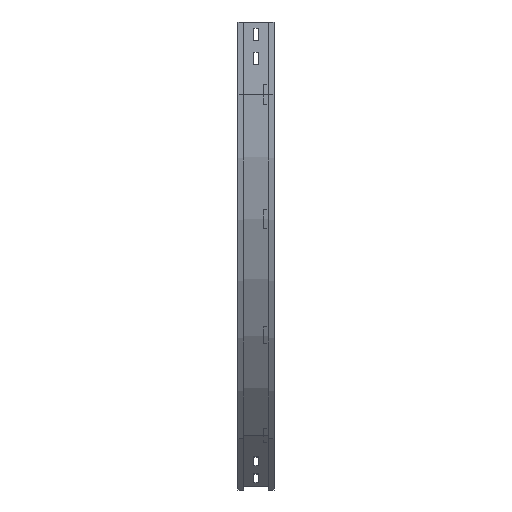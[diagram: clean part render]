
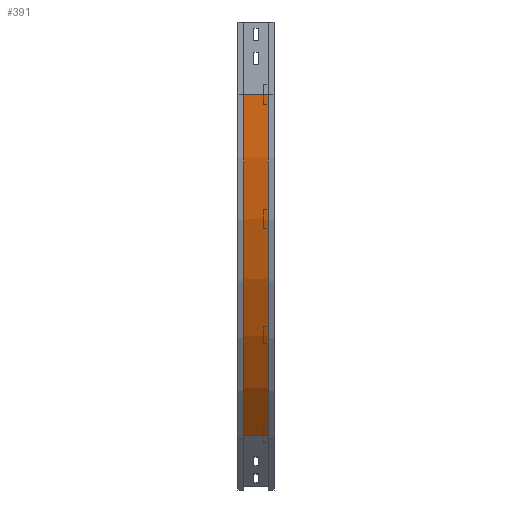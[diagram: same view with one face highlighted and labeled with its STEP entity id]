
A CAD part, left-side view. The second image highlights one B-rep face of the part: STEP entity #391.
In plain terms, the highlighted cylindrical face has radius 1000 mm (diameter 2000 mm), a partial arc.
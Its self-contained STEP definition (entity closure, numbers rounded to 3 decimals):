
#13 = DIRECTION ( 'NONE',  ( -1., 0., 0. ) ) ;
#59 = AXIS2_PLACEMENT_3D ( 'NONE', #2883, #1597, #1541 ) ;
#391 = ADVANCED_FACE ( 'NONE', ( #2076 ), #3380, .T. ) ;
#441 = ORIENTED_EDGE ( 'NONE', *, *, #2560, .T. ) ;
#532 = VERTEX_POINT ( 'NONE', #2187 ) ;
#544 = CIRCLE ( 'NONE', #2575, 1000. ) ;
#577 = CARTESIAN_POINT ( 'NONE',  ( 301.893, 12., -857.107 ) ) ;
#714 = EDGE_CURVE ( 'NONE', #2636, #1776, #1269, .T. ) ;
#759 = ORIENTED_EDGE ( 'NONE', *, *, #1771, .F. ) ;
#1162 = VERTEX_POINT ( 'NONE', #3138 ) ;
#1185 = DIRECTION ( 'NONE',  ( 0., -1., 0. ) ) ;
#1190 = CARTESIAN_POINT ( 'NONE',  ( 1009., 12., -150. ) ) ;
#1253 = CARTESIAN_POINT ( 'NONE',  ( 9., 12., -150. ) ) ;
#1269 = LINE ( 'NONE', #1253, #3153 ) ;
#1431 = DIRECTION ( 'NONE',  ( -1., 0., 0. ) ) ;
#1541 = DIRECTION ( 'NONE',  ( 0., 0., -1. ) ) ;
#1597 = DIRECTION ( 'NONE',  ( 0., -1., 0. ) ) ;
#1604 = CARTESIAN_POINT ( 'NONE',  ( 9., 12., -150. ) ) ;
#1771 = EDGE_CURVE ( 'NONE', #1776, #532, #2202, .T. ) ;
#1776 = VERTEX_POINT ( 'NONE', #1604 ) ;
#1922 = EDGE_LOOP ( 'NONE', ( #759, #3285, #3279, #441 ) ) ;
#2059 = VECTOR ( 'NONE', #1185, 1000. ) ;
#2076 = FACE_OUTER_BOUND ( 'NONE', #1922, .T. ) ;
#2187 = CARTESIAN_POINT ( 'NONE',  ( 301.893, 12., -857.107 ) ) ;
#2199 = CARTESIAN_POINT ( 'NONE',  ( 9., 63., -150. ) ) ;
#2202 = CIRCLE ( 'NONE', #2955, 1000. ) ;
#2254 = DIRECTION ( 'NONE',  ( 0., -1., 0. ) ) ;
#2401 = DIRECTION ( 'NONE',  ( 0., -1., 0. ) ) ;
#2560 = EDGE_CURVE ( 'NONE', #1162, #532, #3192, .T. ) ;
#2575 = AXIS2_PLACEMENT_3D ( 'NONE', #3190, #2986, #1431 ) ;
#2636 = VERTEX_POINT ( 'NONE', #2199 ) ;
#2883 = CARTESIAN_POINT ( 'NONE',  ( 1009., 0., -150. ) ) ;
#2955 = AXIS2_PLACEMENT_3D ( 'NONE', #1190, #2401, #13 ) ;
#2963 = EDGE_CURVE ( 'NONE', #2636, #1162, #544, .T. ) ;
#2986 = DIRECTION ( 'NONE',  ( 0., -1., 0. ) ) ;
#3138 = CARTESIAN_POINT ( 'NONE',  ( 301.893, 63., -857.107 ) ) ;
#3153 = VECTOR ( 'NONE', #2254, 1000. ) ;
#3190 = CARTESIAN_POINT ( 'NONE',  ( 1009., 63., -150. ) ) ;
#3192 = LINE ( 'NONE', #577, #2059 ) ;
#3279 = ORIENTED_EDGE ( 'NONE', *, *, #2963, .T. ) ;
#3285 = ORIENTED_EDGE ( 'NONE', *, *, #714, .F. ) ;
#3380 = CYLINDRICAL_SURFACE ( 'NONE', #59, 1000. ) ;
